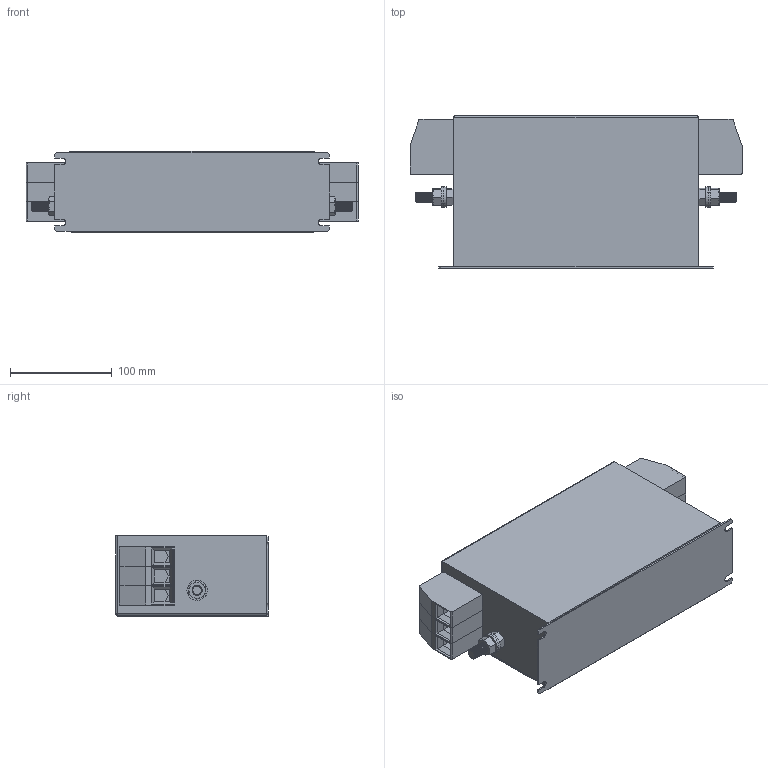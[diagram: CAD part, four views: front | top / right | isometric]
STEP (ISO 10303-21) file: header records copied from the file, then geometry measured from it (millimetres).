
FILE_DESCRIPTION (( 'STEP AP203' ), '1' );
FILE_NAME ('NF-K-75(50).STEP', '2013-10-23T10:46:18', ( 'Owner' ), ( 'EPA GmbH' ), 'SwSTEP 2.0', 'SolidWorks 2007', '' );
FILE_SCHEMA (( 'CONFIG_CONTROL_DESIGN' ));
Length unit declared in the file: millimetre
Products named in the file (7): NK-K-75(50); Hex Nut Style 1_AM_B18.2.4.1M - Hex nut, Style 1,  M10 x 1.5, with 16mm WAF --D-N; NF-K-75(50); HDFK-50; M10x30 Earth post; Hex Screw_AM_B18.6.7M - M10 x 1.5 x 30 Plain HHMS --30S; Flat Washer Narrow_AM_B18.22M - Plain washer, 10 mm, narrow
Assembly tree (13 placements, depth 3):
  NF-K-75(50)
    HDFK-50  x6
    M10x30 Earth post  x2
      Flat Washer Narrow_AM_B18.22M - Plain washer, 10 mm, narrow
      Hex Nut Style 1_AM_B18.2.4.1M - Hex nut, Style 1,  M10 x 1.5, with 16mm WAF --D-N
      Hex Screw_AM_B18.6.7M - M10 x 1.5 x 30 Plain HHMS --30S
    NK-K-75(50)
Bounding box: 326.01 x 150 x 80 mm (x, y, z)
Volume: 2919671.2 mm3; surface area: 287034.7 mm2
Topology: 15 solids, 15 shells, 783 faces, 1923 edges, 1218 vertices
Faces by surface type: plane 384, cone 200, cylinder 197, sphere 2
Entity records: 10280 total; most frequent: CARTESIAN_POINT 1802, DIRECTION 1669, ORIENTED_EDGE 1538, EDGE_CURVE 769, AXIS2_PLACEMENT_3D 623, VERTEX_POINT 484, VECTOR 423, LINE 423
